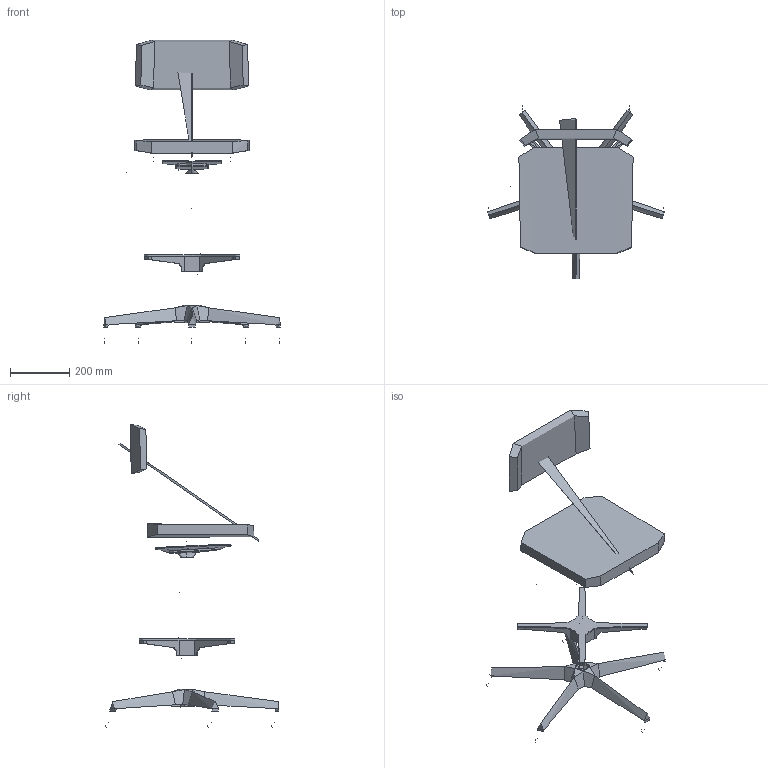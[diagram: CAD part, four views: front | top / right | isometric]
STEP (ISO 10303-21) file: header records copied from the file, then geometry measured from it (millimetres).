
FILE_DESCRIPTION(/* description */ (''),/* implementation_level */ '2;1');
FILE_NAME(/* name */ 'ZOE 223-BL',/* time_stamp */ '2023-05-17T16:50:27+02:00',/* author */ (''),/* organization */ (''),/* preprocessor_version */ 'ST-DEVELOPER v16.5',/* originating_system */ 'Rhino 7.29',/* authorisation */ '');
FILE_SCHEMA (('CONFIG_CONTROL_DESIGN'));
Length unit declared in the file: millimetre
Products named in the file (1): Document
Bounding box: 597.38 x 585.8 x 1025.24 mm (x, y, z)
Volume: 15651079.9 mm3; surface area: 1684710.4 mm2
Topology: 16 solids, 25 shells, 319 faces, 750 edges, 457 vertices
Faces by surface type: bspline 127, plane 125, cylinder 67
Full cylindrical faces by diameter (mm): 8 x1, 11 x5, 22 x2, 28 x1, 46 x1, 50 x6, 80 x1
Entity records: 21798 total; most frequent: CARTESIAN_POINT 16945, ORIENTED_EDGE 1419, EDGE_CURVE 752, VERTEX_POINT 460, B_SPLINE_CURVE_WITH_KNOTS 441, EDGE_LOOP 326, ADVANCED_FACE 319, FACE_OUTER_BOUND 319
